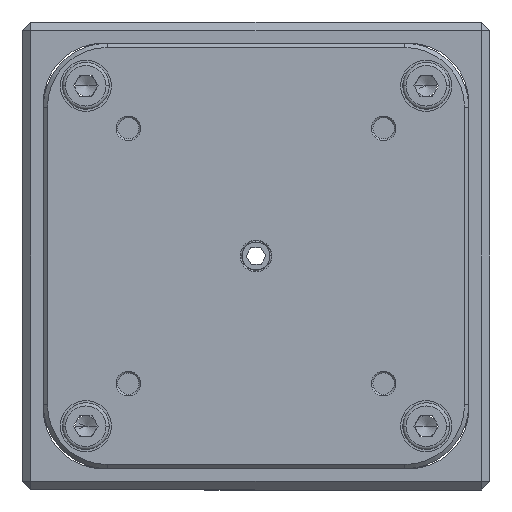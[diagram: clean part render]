
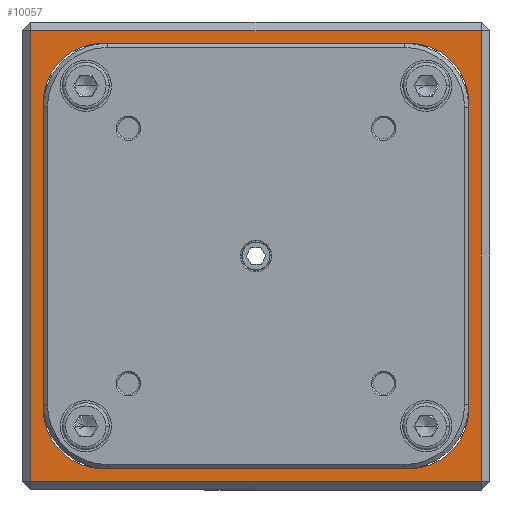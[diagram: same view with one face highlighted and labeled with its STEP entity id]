
A CAD part, front view. The second image highlights one B-rep face of the part: STEP entity #10057.
In plain terms, the highlighted planar face has unit normal (0, -1, 0).
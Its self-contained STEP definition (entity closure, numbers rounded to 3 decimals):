
#262 = CARTESIAN_POINT ( 'NONE',  ( -76.383, -14.591, -18. ) ) ;
#546 = LINE ( 'NONE', #3254, #1034 ) ;
#605 = CARTESIAN_POINT ( 'NONE',  ( -31.883, -14.591, 26.5 ) ) ;
#632 = DIRECTION ( 'NONE',  ( 0., 1., 0. ) ) ;
#636 = CARTESIAN_POINT ( 'NONE',  ( -58.383, -14.591, 0. ) ) ;
#721 = EDGE_CURVE ( 'NONE', #4213, #2723, #9701, .T. ) ;
#1034 = VECTOR ( 'NONE', #11570, 1000. ) ;
#1213 = EDGE_CURVE ( 'NONE', #1528, #7951, #5416, .T. ) ;
#1360 = CARTESIAN_POINT ( 'NONE',  ( -58.383, -14.591, -26.5 ) ) ;
#1451 = ORIENTED_EDGE ( 'NONE', *, *, #5277, .T. ) ;
#1528 = VERTEX_POINT ( 'NONE', #10150 ) ;
#2079 = VERTEX_POINT ( 'NONE', #605 ) ;
#2165 = CARTESIAN_POINT ( 'NONE',  ( -83.383, -14.591, 18. ) ) ;
#2210 = LINE ( 'NONE', #1360, #6007 ) ;
#2457 = AXIS2_PLACEMENT_3D ( 'NONE', #636, #10462, #5884 ) ;
#2605 = DIRECTION ( 'NONE',  ( -1., 0., 0. ) ) ;
#2723 = VERTEX_POINT ( 'NONE', #3477 ) ;
#2836 = DIRECTION ( 'NONE',  ( 0., 0., 1. ) ) ;
#3011 = DIRECTION ( 'NONE',  ( 0., 0., -1. ) ) ;
#3147 = AXIS2_PLACEMENT_3D ( 'NONE', #262, #3929, #6722 ) ;
#3226 = CARTESIAN_POINT ( 'NONE',  ( -40.383, -14.591, -18. ) ) ;
#3228 = CARTESIAN_POINT ( 'NONE',  ( -83.383, -14.591, 25. ) ) ;
#3254 = CARTESIAN_POINT ( 'NONE',  ( -31.883, -14.591, 0. ) ) ;
#3477 = CARTESIAN_POINT ( 'NONE',  ( -83.383, -14.591, -18. ) ) ;
#3729 = CARTESIAN_POINT ( 'NONE',  ( -33.383, -14.591, -25. ) ) ;
#3768 = CARTESIAN_POINT ( 'NONE',  ( -33.383, -14.591, 25. ) ) ;
#3772 = EDGE_CURVE ( 'NONE', #2723, #10779, #8967, .T. ) ;
#3878 = VERTEX_POINT ( 'NONE', #9756 ) ;
#3929 = DIRECTION ( 'NONE',  ( 0., 1., 0. ) ) ;
#3946 = AXIS2_PLACEMENT_3D ( 'NONE', #3226, #11103, #2836 ) ;
#3954 = CARTESIAN_POINT ( 'NONE',  ( -33.383, -14.591, -18. ) ) ;
#4071 = DIRECTION ( 'NONE',  ( 0., 0., -1. ) ) ;
#4213 = VERTEX_POINT ( 'NONE', #7834 ) ;
#4445 = EDGE_LOOP ( 'NONE', ( #11918, #1451, #9860, #10791 ) ) ;
#4636 = CARTESIAN_POINT ( 'NONE',  ( -33.383, -14.591, 18. ) ) ;
#4685 = ORIENTED_EDGE ( 'NONE', *, *, #3772, .T. ) ;
#4812 = CARTESIAN_POINT ( 'NONE',  ( -40.383, -14.591, 25. ) ) ;
#4951 = VECTOR ( 'NONE', #4071, 1000. ) ;
#5142 = ORIENTED_EDGE ( 'NONE', *, *, #721, .T. ) ;
#5277 = EDGE_CURVE ( 'NONE', #5481, #6887, #2210, .T. ) ;
#5364 = DIRECTION ( 'NONE',  ( 1., 0., 0. ) ) ;
#5416 = LINE ( 'NONE', #3768, #8356 ) ;
#5481 = VERTEX_POINT ( 'NONE', #6650 ) ;
#5689 = CIRCLE ( 'NONE', #9775, 7. ) ;
#5755 = DIRECTION ( 'NONE',  ( 1., 0., 0. ) ) ;
#5826 = LINE ( 'NONE', #8556, #8842 ) ;
#5851 = EDGE_CURVE ( 'NONE', #11023, #7245, #8628, .T. ) ;
#5871 = CARTESIAN_POINT ( 'NONE',  ( -40.383, -14.591, 18. ) ) ;
#5884 = DIRECTION ( 'NONE',  ( 0., 0., 1. ) ) ;
#6007 = VECTOR ( 'NONE', #5755, 1000. ) ;
#6078 = CARTESIAN_POINT ( 'NONE',  ( -40.383, -14.591, -25. ) ) ;
#6129 = FACE_OUTER_BOUND ( 'NONE', #4445, .T. ) ;
#6189 = CARTESIAN_POINT ( 'NONE',  ( -84.883, -14.591, 0. ) ) ;
#6358 = VERTEX_POINT ( 'NONE', #6078 ) ;
#6650 = CARTESIAN_POINT ( 'NONE',  ( -84.883, -14.591, -26.5 ) ) ;
#6722 = DIRECTION ( 'NONE',  ( 0., 0., 1. ) ) ;
#6756 = DIRECTION ( 'NONE',  ( -1., 0., 0. ) ) ;
#6799 = FACE_BOUND ( 'NONE', #7536, .T. ) ;
#6887 = VERTEX_POINT ( 'NONE', #7318 ) ;
#6903 = EDGE_CURVE ( 'NONE', #6358, #4213, #9180, .T. ) ;
#7245 = VERTEX_POINT ( 'NONE', #3954 ) ;
#7304 = ORIENTED_EDGE ( 'NONE', *, *, #6903, .T. ) ;
#7318 = CARTESIAN_POINT ( 'NONE',  ( -31.883, -14.591, -26.5 ) ) ;
#7536 = EDGE_LOOP ( 'NONE', ( #7304, #5142, #4685, #11294, #7648, #8923, #10753, #7991 ) ) ;
#7549 = CARTESIAN_POINT ( 'NONE',  ( -33.383, -14.591, 25. ) ) ;
#7648 = ORIENTED_EDGE ( 'NONE', *, *, #1213, .T. ) ;
#7834 = CARTESIAN_POINT ( 'NONE',  ( -76.383, -14.591, -25. ) ) ;
#7951 = VERTEX_POINT ( 'NONE', #4812 ) ;
#7991 = ORIENTED_EDGE ( 'NONE', *, *, #8300, .T. ) ;
#8024 = EDGE_CURVE ( 'NONE', #6887, #2079, #546, .T. ) ;
#8060 = DIRECTION ( 'NONE',  ( 0., 0., 1. ) ) ;
#8300 = EDGE_CURVE ( 'NONE', #7245, #6358, #11666, .T. ) ;
#8356 = VECTOR ( 'NONE', #5364, 1000. ) ;
#8537 = VECTOR ( 'NONE', #2605, 1000. ) ;
#8556 = CARTESIAN_POINT ( 'NONE',  ( -58.383, -14.591, 26.5 ) ) ;
#8628 = LINE ( 'NONE', #7549, #11001 ) ;
#8666 = LINE ( 'NONE', #6189, #4951 ) ;
#8775 = DIRECTION ( 'NONE',  ( 0., 0., 1. ) ) ;
#8842 = VECTOR ( 'NONE', #6756, 1000. ) ;
#8923 = ORIENTED_EDGE ( 'NONE', *, *, #11359, .T. ) ;
#8967 = LINE ( 'NONE', #3228, #10956 ) ;
#9022 = AXIS2_PLACEMENT_3D ( 'NONE', #5871, #11486, #9559 ) ;
#9180 = LINE ( 'NONE', #3729, #8537 ) ;
#9559 = DIRECTION ( 'NONE',  ( 0., 0., 1. ) ) ;
#9583 = EDGE_CURVE ( 'NONE', #10779, #1528, #5689, .T. ) ;
#9701 = CIRCLE ( 'NONE', #3147, 7. ) ;
#9756 = CARTESIAN_POINT ( 'NONE',  ( -84.883, -14.591, 26.5 ) ) ;
#9775 = AXIS2_PLACEMENT_3D ( 'NONE', #11665, #632, #8775 ) ;
#9860 = ORIENTED_EDGE ( 'NONE', *, *, #8024, .T. ) ;
#10057 = ADVANCED_FACE ( 'NONE', ( #6129, #6799 ), #11668, .F. ) ;
#10065 = EDGE_CURVE ( 'NONE', #3878, #5481, #8666, .T. ) ;
#10150 = CARTESIAN_POINT ( 'NONE',  ( -76.383, -14.591, 25. ) ) ;
#10462 = DIRECTION ( 'NONE',  ( 0., 1., 0. ) ) ;
#10753 = ORIENTED_EDGE ( 'NONE', *, *, #5851, .T. ) ;
#10779 = VERTEX_POINT ( 'NONE', #2165 ) ;
#10791 = ORIENTED_EDGE ( 'NONE', *, *, #11137, .T. ) ;
#10956 = VECTOR ( 'NONE', #8060, 1000. ) ;
#11001 = VECTOR ( 'NONE', #3011, 1000. ) ;
#11023 = VERTEX_POINT ( 'NONE', #4636 ) ;
#11103 = DIRECTION ( 'NONE',  ( 0., 1., 0. ) ) ;
#11137 = EDGE_CURVE ( 'NONE', #2079, #3878, #5826, .T. ) ;
#11294 = ORIENTED_EDGE ( 'NONE', *, *, #9583, .T. ) ;
#11359 = EDGE_CURVE ( 'NONE', #7951, #11023, #11925, .T. ) ;
#11486 = DIRECTION ( 'NONE',  ( 0., 1., 0. ) ) ;
#11570 = DIRECTION ( 'NONE',  ( 0., 0., 1. ) ) ;
#11665 = CARTESIAN_POINT ( 'NONE',  ( -76.383, -14.591, 18. ) ) ;
#11666 = CIRCLE ( 'NONE', #3946, 7. ) ;
#11668 = PLANE ( 'NONE',  #2457 ) ;
#11918 = ORIENTED_EDGE ( 'NONE', *, *, #10065, .T. ) ;
#11925 = CIRCLE ( 'NONE', #9022, 7. ) ;
